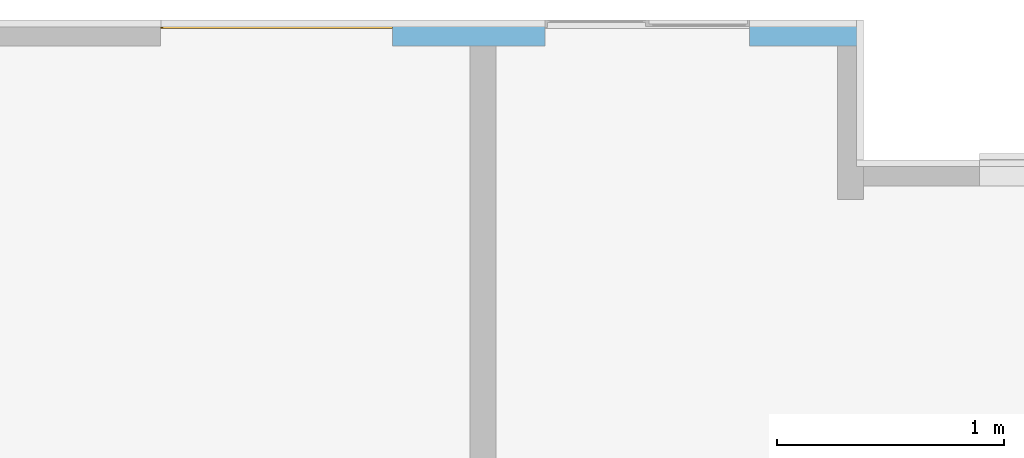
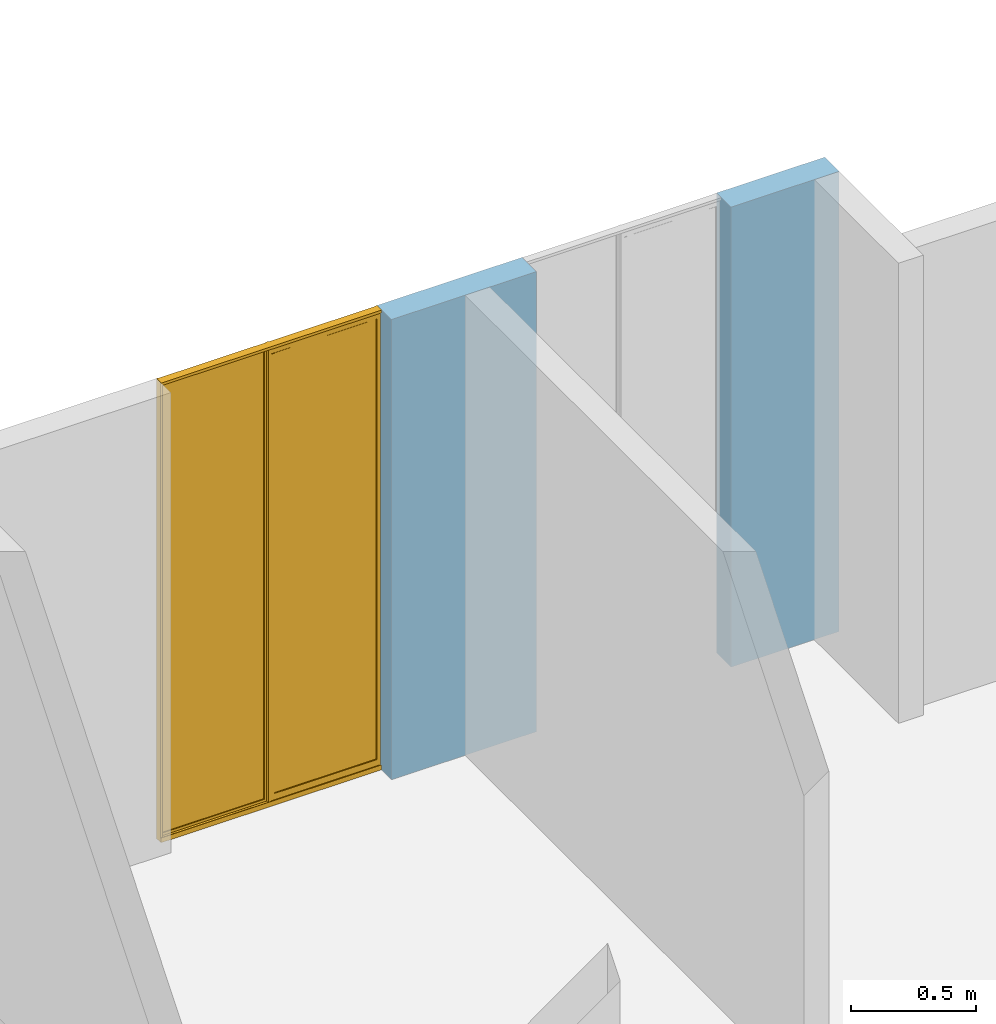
# One storey, part 18 of 48: 1 window, 2 openings, plus 1 element that does not belong to this part.
"""IFC4 building model written with IfcOpenShell, lengths in metres."""

from ifc_helpers import new_model, entity, si_unit, converted_unit, derived_unit, direction, frame, origin, place, context, subcontext, project, spatial, indexed_curve, outline, extrude, polygons, source, transform, mapped, material, constituent, constituent_set, type_object, type_shapes, element, fill, save


model = new_model("IFC4")

# Units and contexts
model_context = context("Model", 3, precision=1e-05, world=origin(), true_north=direction((6.123031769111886e-17, 1.0)))
body_context = subcontext(model_context, "Body", "Model", "MODEL_VIEW")
ifc_project = project(units=[si_unit("LENGTHUNIT", "METRE"), si_unit("AREAUNIT", "SQUARE_METRE"), si_unit("VOLUMEUNIT", "CUBIC_METRE"), converted_unit("PLANEANGLEUNIT", "DEGREE", entity("IfcRatioMeasure", 0.017453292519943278), si_unit("PLANEANGLEUNIT", "RADIAN"), dimensions=[0, 0, 0, 0, 0, 0, 0]), si_unit("MASSUNIT", "GRAM", prefix="KILO"), derived_unit("MASSDENSITYUNIT", [(si_unit("MASSUNIT", "GRAM", prefix="KILO"), 1), (si_unit("LENGTHUNIT", "METRE"), -3)]), derived_unit("IONCONCENTRATIONUNIT", [(si_unit("MASSUNIT", "GRAM", prefix="KILO"), 1), (si_unit("LENGTHUNIT", "METRE"), -3)]), derived_unit("MOMENTOFINERTIAUNIT", [(si_unit("LENGTHUNIT", "METRE"), 4)]), si_unit("TIMEUNIT", "SECOND"), si_unit("FREQUENCYUNIT", "HERTZ"), si_unit("THERMODYNAMICTEMPERATUREUNIT", "DEGREE_CELSIUS"), derived_unit("THERMALTRANSMITTANCEUNIT", [(si_unit("MASSUNIT", "GRAM", prefix="KILO"), 1), (si_unit("THERMODYNAMICTEMPERATUREUNIT", "KELVIN"), -1), (si_unit("TIMEUNIT", "SECOND"), -3)]), derived_unit("THERMALCONDUCTANCEUNIT", [(si_unit("MASSUNIT", "GRAM", prefix="KILO"), 1), (si_unit("THERMODYNAMICTEMPERATUREUNIT", "KELVIN"), -1), (si_unit("TIMEUNIT", "SECOND"), -3), (si_unit("LENGTHUNIT", "METRE"), 1)]), derived_unit("VOLUMETRICFLOWRATEUNIT", [(si_unit("LENGTHUNIT", "METRE"), 3), (si_unit("TIMEUNIT", "SECOND"), -1)]), derived_unit("MASSFLOWRATEUNIT", [(si_unit("MASSUNIT", "GRAM", prefix="KILO"), 1), (si_unit("TIMEUNIT", "SECOND"), -1)]), derived_unit("ROTATIONALFREQUENCYUNIT", [(si_unit("TIMEUNIT", "SECOND"), -1)]), si_unit("ELECTRICCURRENTUNIT", "AMPERE"), si_unit("ELECTRICVOLTAGEUNIT", "VOLT"), si_unit("POWERUNIT", "WATT"), si_unit("FORCEUNIT", "NEWTON", prefix="KILO"), si_unit("ILLUMINANCEUNIT", "LUX"), si_unit("LUMINOUSFLUXUNIT", "LUMEN"), si_unit("LUMINOUSINTENSITYUNIT", "CANDELA"), derived_unit("USERDEFINED", [(si_unit("MASSUNIT", "GRAM", prefix="KILO"), -1), (si_unit("LENGTHUNIT", "METRE"), -2), (si_unit("TIMEUNIT", "SECOND"), 3), (si_unit("LUMINOUSFLUXUNIT", "LUMEN"), 1)]), derived_unit("USERDEFINED", [(si_unit("MASSUNIT", "GRAM", prefix="KILO"), 1), (si_unit("TIMEUNIT", "SECOND"), -3), (si_unit("LENGTHUNIT", "METRE"), 3), (si_unit("ELECTRICCURRENTUNIT", "AMPERE"), -2)]), derived_unit("SOUNDPOWERUNIT", [(si_unit("MASSUNIT", "GRAM", prefix="KILO"), 1), (si_unit("TIMEUNIT", "SECOND"), -3), (si_unit("LENGTHUNIT", "METRE"), 2)]), derived_unit("SOUNDPRESSUREUNIT", [(si_unit("MASSUNIT", "GRAM", prefix="KILO"), 1), (si_unit("LENGTHUNIT", "METRE"), -1), (si_unit("TIMEUNIT", "SECOND"), -2)]), derived_unit("LINEARVELOCITYUNIT", [(si_unit("LENGTHUNIT", "METRE"), 1), (si_unit("TIMEUNIT", "SECOND"), -1)]), si_unit("PRESSUREUNIT", "PASCAL"), derived_unit("USERDEFINED", [(si_unit("MASSUNIT", "GRAM", prefix="KILO"), 1), (si_unit("LENGTHUNIT", "METRE"), -2), (si_unit("TIMEUNIT", "SECOND"), -2)]), derived_unit("LINEARFORCEUNIT", [(si_unit("MASSUNIT", "GRAM", prefix="KILO"), 1), (si_unit("TIMEUNIT", "SECOND"), -2)]), derived_unit("PLANARFORCEUNIT", [(si_unit("MASSUNIT", "GRAM", prefix="KILO"), 1), (si_unit("LENGTHUNIT", "METRE"), -1), (si_unit("TIMEUNIT", "SECOND"), -2)]), derived_unit("SPECIFICHEATCAPACITYUNIT", [(si_unit("THERMODYNAMICTEMPERATUREUNIT", "KELVIN"), -1), (si_unit("LENGTHUNIT", "METRE"), 2), (si_unit("TIMEUNIT", "SECOND"), -2)]), derived_unit("HEATINGVALUEUNIT", [(si_unit("LENGTHUNIT", "METRE"), 2), (si_unit("TIMEUNIT", "SECOND"), -2)]), derived_unit("VAPORPERMEABILITYUNIT", [(si_unit("LENGTHUNIT", "METRE"), -1), (si_unit("TIMEUNIT", "SECOND"), 1)]), derived_unit("DYNAMICVISCOSITYUNIT", [(si_unit("MASSUNIT", "GRAM", prefix="KILO"), 1), (si_unit("TIMEUNIT", "SECOND"), -1), (si_unit("LENGTHUNIT", "METRE"), -1)]), derived_unit("THERMALEXPANSIONCOEFFICIENTUNIT", [(si_unit("THERMODYNAMICTEMPERATUREUNIT", "KELVIN"), -1)]), derived_unit("MODULUSOFELASTICITYUNIT", [(si_unit("MASSUNIT", "GRAM", prefix="KILO"), 1), (si_unit("LENGTHUNIT", "METRE"), -1), (si_unit("TIMEUNIT", "SECOND"), -2)]), derived_unit("ISOTHERMALMOISTURECAPACITYUNIT", [(si_unit("LENGTHUNIT", "METRE"), 3), (si_unit("MASSUNIT", "GRAM", prefix="KILO"), -1)]), derived_unit("MOISTUREDIFFUSIVITYUNIT", [(si_unit("TIMEUNIT", "SECOND"), -1), (si_unit("LENGTHUNIT", "METRE"), 2)])], contexts=[model_context])

# Site, building, storey
site_placement = place(None, origin())
site = spatial("IfcSite", under=ifc_project, at=site_placement, Name="Default", CompositionType="ELEMENT")
building_placement = place(site_placement, origin())
building = spatial("IfcBuilding", under=site, at=building_placement, CompositionType="ELEMENT")
storey_placement = place(building_placement, frame((0.0, 0.0, 9.40000000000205)))
storey = spatial("IfcBuildingStorey", under=building, at=storey_placement, Name="Nivel 5", CompositionType="ELEMENT", Elevation=9.40000000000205)

# Wall, openings, window
ifc_material_1 = material(Name="Ladrillo claro (Aire)", Category="Materials")
wall_type = type_object("IfcWallType", Name="Basic Wall:B2010 - 0.115m - Muro exterior en mampostería - Ladrillo", PredefinedType="STANDARD")
wall_placement = place(storey_placement, frame((6.182499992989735, -0.037500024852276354, 0.0), z_axis=(0.0, 0.0, 1.0), x_axis=(-1.0, 0.0, 0.0)))
wall = element("IfcWall", 1, at=wall_placement, inside=storey, type_object=wall_type, material=ifc_material_1, Name="Basic Wall:B2010 - 0.115m - Muro exterior en mampostería - Ladrillo", ObjectType="Basic Wall:B2010 - 0.115m - Muro exterior en mampostería - Ladrillo", PredefinedType="NOTDEFINED", context=body_context, shape_type="Tessellation", body=[
    polygons([(1.8132921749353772e-17, -0.05750000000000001, 2.250000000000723), (1.1010000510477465e-15, -0.05750000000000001, -1.0828671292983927e-15), (0.5000000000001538, -0.05750000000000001, -1.0828671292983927e-15), (0.5000000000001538, -0.05750000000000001, 2.250000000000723), (2.079602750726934e-15, 0.05749999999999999, -1.0828671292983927e-15), (0.11500000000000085, 0.05749999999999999, -1.0828671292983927e-15), (0.5000000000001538, 0.05749999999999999, -1.0828671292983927e-15), (9.967356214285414e-16, 0.05749999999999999, 2.250000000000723), (0.5000000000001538, 0.05749999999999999, 2.250000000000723), (0.11500000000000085, 0.05749999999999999, 2.250000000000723)], [[[1, 2, 3, 4]], [[2, 5, 6, 7, 3]], [[2, 1, 8, 5]], [[4, 3, 7, 9]], [[8, 1, 4, 9, 10]], [[5, 8, 10, 9, 7, 6]]], closed=True),
    polygons([(1.4000000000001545, 0.05749999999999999, -1.0828671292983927e-15), (1.4000000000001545, 0.05749999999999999, 2.250000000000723), (1.6149999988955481, 0.0575, 2.250000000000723), (1.729999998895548, 0.05749999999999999, 2.250000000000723), (2.0707999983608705, 0.05749999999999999, 2.250000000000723), (2.0707999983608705, 0.05749999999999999, -1.0828671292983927e-15), (1.729999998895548, 0.05749999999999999, -1.0828671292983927e-15), (1.6149999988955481, 0.0575, -1.0828671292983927e-15), (1.4000000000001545, -0.05750000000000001, 2.250000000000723), (2.0707999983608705, -0.05750000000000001, 2.250000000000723), (2.0707999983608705, -0.05750000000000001, -1.0828671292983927e-15), (1.4000000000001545, -0.05750000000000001, -1.0828671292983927e-15)], [[[1, 2, 3, 4, 5, 6, 7, 8]], [[2, 9, 10, 5, 4, 3]], [[10, 11, 6, 5]], [[12, 9, 2, 1]], [[12, 1, 8, 7, 6, 11]], [[9, 12, 11, 10]]], closed=True),
])
opening_1_placement = place(wall_placement, frame((0.5000000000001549, -0.05750000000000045, 0.0)))
element("IfcOpeningElement", 2, at=opening_1_placement, cuts=wall, Name="B2020 - Ventana corrediza 2C - Aluminio + Vidrio:B2020 - 0.90m x 2.25m - Ventana corrediza 2C - Aluminio + Vidrio:1", PredefinedType="OPENING", context=body_context, shape_type="SweptSolid", body=[
    extrude(outline(indexed_curve([(0.0, 0.9), (0.0, 0.0), (2.2499999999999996, 0.0), (2.249999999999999, 0.9), (0.0, 0.9)], self_intersect=False)), frame((0.0, 0.0, 0.0), z_axis=(0.0, 1.0, 0.0), x_axis=(0.0, 0.0, 1.0)), (0.0, 0.0, 1.0), 0.115),
])
opening_2_placement = place(wall_placement, frame((2.0707999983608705, -0.0575000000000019, 0.0)))
opening_2 = element("IfcOpeningElement", 3, at=opening_2_placement, cuts=wall, Name="B2020 - Ventana corrediza 2C - Aluminio + Vidrio:B2020 - 1.02m x 2.25m - Ventana corrediza 2C - Aluminio + Vidrio:1", PredefinedType="OPENING", context=body_context, shape_type="SweptSolid", body=[
    extrude(outline(indexed_curve([(0.0, 1.0199999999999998), (0.0, -7.67014426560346e-33), (2.2499999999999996, -7.67014426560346e-33), (2.249999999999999, 1.0199999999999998), (0.0, 1.0199999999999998)], self_intersect=False)), frame((0.0, 0.0, 0.0), z_axis=(0.0, 1.0, 0.0), x_axis=(0.0, 0.0, 1.0)), (0.0, 0.0, 1.0), 0.115),
])
ifc_material_2 = material(Name="Vidrio", Category="Materials")
ifc_constituent_1 = constituent(ifc_material_2, Name="Vidrio", Category="Materials")
ifc_material_3 = material(Name="<Unnamed>")
ifc_constituent_2 = constituent(ifc_material_3, Name="<Unnamed>")
ifc_constituent_set_1 = constituent_set(constituents=[ifc_constituent_1, ifc_constituent_2])
ifc_constituent_3 = constituent(ifc_material_2, Name="Vidrio", Category="Materials")
ifc_constituent_4 = constituent(ifc_material_3, Name="<Unnamed>")
ifc_constituent_set_2 = constituent_set(constituents=[ifc_constituent_3, ifc_constituent_4])
window_type = type_object("IfcWindowType", Name="B2020 - Ventana corrediza 2C - Aluminio + Vidrio:B2020 - 1.02m x 2.25m - Ventana corrediza 2C - Aluminio + Vidrio", PartitioningType="NOTDEFINED", PredefinedType="WINDOW", material=ifc_constituent_set_2)
shared_shape = source(origin(), body_context, "Body", "Tessellation", [
    polygons([(0.48981286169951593, 0.11062877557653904, 0.028641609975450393), (0.48981286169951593, 0.10552744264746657, 0.028641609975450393), (0.01996764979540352, 0.10552744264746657, 0.028641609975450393), (0.019967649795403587, 0.11062877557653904, 0.028641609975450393), (0.48981286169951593, 0.11062877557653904, 2.2347073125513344), (0.48981286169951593, 0.10552744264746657, 2.2347073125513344), (0.01996764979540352, 0.10552744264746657, 2.2347073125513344), (0.019967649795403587, 0.11062877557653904, 2.2347073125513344)], [[[1, 2, 3, 4]], [[5, 6, 2, 1]], [[6, 7, 3, 2]], [[7, 8, 4, 3]], [[8, 5, 1, 4]], [[5, 8, 7, 6]]], closed=True),
    polygons([(1.0011536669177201, 0.0938089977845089, 0.054189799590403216), (1.0011536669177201, 0.08951300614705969, 0.054189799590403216), (0.5317289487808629, 0.08951300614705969, 0.054189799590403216), (0.5317289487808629, 0.0938089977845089, 0.054189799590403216), (1.0011536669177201, 0.0938089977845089, 2.2043993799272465), (1.0011536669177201, 0.08951300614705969, 2.2043993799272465), (0.5317289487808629, 0.08951300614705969, 2.2043993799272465), (0.5317289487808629, 0.0938089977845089, 2.2043993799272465)], [[[1, 2, 3, 4]], [[5, 6, 2, 1]], [[6, 7, 3, 2]], [[7, 8, 4, 3]], [[8, 5, 1, 4]], [[5, 8, 7, 6]]], closed=True),
    polygons([(1.0200000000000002, 0.07999999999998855, 0.020380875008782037), (1.0200000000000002, 0.07999999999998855, -2.5718094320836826e-15), (1.0200000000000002, 0.1149999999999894, -2.5718094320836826e-15), (1.0200000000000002, 0.1150000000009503, 2.2499999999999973), (1.0200000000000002, 0.07720993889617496, 2.2499999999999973), (1.0200000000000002, 0.07720993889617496, 2.2365872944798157), (1.0200000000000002, 0.07857307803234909, 2.2365872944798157), (1.0200000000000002, 0.07857307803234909, 2.24863686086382), (1.0200000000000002, 0.08683610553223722, 2.24863686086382), (1.0200000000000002, 0.0868361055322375, 0.017447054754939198), (1.0200000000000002, 0.08124999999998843, 0.017447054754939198), (1.0200000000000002, 0.08124999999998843, 0.02163087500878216), (1.0200000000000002, 0.07857761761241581, 0.02163087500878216), (1.0200000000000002, 0.07857761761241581, 0.025674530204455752), (1.0200000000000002, 0.07732761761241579, 0.025674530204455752), (1.0200000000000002, 0.07732761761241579, 0.020380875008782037), (2.0303758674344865e-16, 0.0799999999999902, 0.020380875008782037), (2.0303758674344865e-16, 0.0799999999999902, -2.5718094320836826e-15), (2.0303758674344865e-16, 0.11499999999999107, -2.5718094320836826e-15), (0.5033545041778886, 0.1149999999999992, 2.2499999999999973), (0.5166454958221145, 0.1149999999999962, 2.2499999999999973), (0.5166454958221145, 0.11499999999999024, 0.006176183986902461), (1.010102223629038, 0.11499999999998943, 0.006176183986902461), (1.010102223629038, 0.1150000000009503, 2.2499999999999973), (2.707167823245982e-16, 0.1150000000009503, 2.2499999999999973), (0.009999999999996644, 0.11500000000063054, 2.2499999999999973), (0.009999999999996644, 0.11499999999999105, 0.006176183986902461), (0.5033545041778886, 0.11499999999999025, 0.006176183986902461), (1.003701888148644, 0.08683610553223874, 2.2069861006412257), (1.0037018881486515, 0.0868361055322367, 0.0519155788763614), (0.5291807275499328, 0.08683610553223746, 0.0519155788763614), (0.5291807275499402, 0.08683610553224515, 2.2043993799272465), (0.5166454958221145, 0.08683610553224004, 2.2043993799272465), (0.5166454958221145, 0.08683610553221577, 2.2069861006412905), (1.0037018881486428, 0.08683610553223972, 2.237270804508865), (0.5166454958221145, 0.0868361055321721, 2.237270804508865), (0.5166454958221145, 0.08683610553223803, 2.24863686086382), (0.5019528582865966, 0.08683610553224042, 2.24863686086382), (0.5019528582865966, 0.08683610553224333, 0.01744705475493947), (0.5166454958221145, 0.08683610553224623, 0.017447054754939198), (0.5166454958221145, 0.08683610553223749, 0.021630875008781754), (1.0162371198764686, 0.08683610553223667, 0.02163087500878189), (1.0162371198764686, 0.08683610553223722, 0.01744705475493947), (1.0037018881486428, 0.08683610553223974, 2.24863686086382), (2.0303758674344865e-16, 0.0812499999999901, 0.017447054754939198), (1.0162371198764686, 0.09036136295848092, 0.017447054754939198), (0.5166454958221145, 0.09036136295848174, 0.017447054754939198), (0.5019528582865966, 0.09036136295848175, 0.017447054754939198), (0.009999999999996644, 0.09036136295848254, 0.017447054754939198), (0.009999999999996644, 0.08300000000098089, 0.017447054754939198), (2.0303758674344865e-16, 0.08300000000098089, 0.017447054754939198), (2.0303758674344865e-16, 0.0812499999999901, 0.02163087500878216), (2.0303758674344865e-16, 0.07857761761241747, 0.02163087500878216), (2.0303758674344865e-16, 0.07857761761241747, 0.025674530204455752), (2.0303758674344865e-16, 0.07732761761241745, 0.025674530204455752), (2.0303758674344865e-16, 0.07732761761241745, 0.020380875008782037), (1.0011570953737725, 0.09380711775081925, 0.054191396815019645), (1.0037018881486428, 0.09648589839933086, 0.051915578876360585), (0.529180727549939, 0.09648589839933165, 0.051915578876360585), (0.5317227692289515, 0.09380452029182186, 0.054191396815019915), (1.0037018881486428, 0.09648589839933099, 2.237270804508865), (1.0011536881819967, 0.09378706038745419, 2.237270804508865), (1.0011536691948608, 0.09378696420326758, 2.24863686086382), (1.0037018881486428, 0.09648589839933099, 2.24863686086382), (1.0037018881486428, 0.09648589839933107, 2.206986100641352), (0.5166454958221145, 0.09648589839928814, 2.2069861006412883), (0.5166454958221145, 0.09648589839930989, 2.237270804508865), (1.010102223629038, 0.09648589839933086, 2.24863686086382), (1.010102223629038, 0.09648589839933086, 0.021630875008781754), (0.5166454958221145, 0.09648589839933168, 0.02163087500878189), (0.5166454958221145, 0.09648589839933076, 2.2043993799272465), (0.5291807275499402, 0.09648589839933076, 2.2043993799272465), (0.5317289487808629, 0.09379979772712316, 2.2043993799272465), (1.0011598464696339, 0.08951748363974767, 0.05419139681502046), (0.5317255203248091, 0.08951488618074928, 0.05419139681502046), (1.0011537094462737, 0.08953496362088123, 2.237270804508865), (1.0011536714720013, 0.08953504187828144, 2.24863686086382), (0.5317289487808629, 0.08952211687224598, 2.2043992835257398), (0.5019528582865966, 0.10334183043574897, 2.24863686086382), (0.5019528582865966, 0.10334183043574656, 0.014402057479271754), (0.5019528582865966, 0.09363692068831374, 0.014402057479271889), (0.5019528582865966, 0.0936369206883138, 0.010600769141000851), (0.5019528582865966, 0.09036136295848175, 0.011279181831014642), (0.5166454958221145, 0.11281438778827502, 2.2499999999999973), (0.5166454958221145, 0.11281438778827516, 2.2369062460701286), (0.5166454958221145, 0.11061545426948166, 2.2347073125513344), (0.5166454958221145, 0.10554076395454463, 2.2347073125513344), (0.5166454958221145, 0.10334183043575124, 2.2369062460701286), (0.5166454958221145, 0.10334183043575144, 2.24863686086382), (0.5166454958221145, 0.09380890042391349, 2.204399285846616), (0.5166454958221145, 0.09036136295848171, 0.011279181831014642), (1.0162371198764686, 0.09648589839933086, 0.021630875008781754), (1.0162371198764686, 0.09648589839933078, 0.010010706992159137), (1.0162371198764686, 0.0903613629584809, 0.011279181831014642), (1.010102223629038, 0.09648589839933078, 0.010010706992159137), (1.010102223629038, 0.10334183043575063, 2.24863686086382), (1.010102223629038, 0.10334183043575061, 2.2369062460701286), (1.010102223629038, 0.1055407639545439, 2.2347073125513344), (1.010102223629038, 0.11061545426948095, 2.2347073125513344), (1.010102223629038, 0.11281438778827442, 2.2369062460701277), (1.010102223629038, 0.11281438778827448, 2.2499999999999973), (2.0303758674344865e-16, 0.08300000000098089, 2.24863686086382), (2.0303758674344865e-16, 0.07857307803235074, 2.24863686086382), (2.0303758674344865e-16, 0.07857307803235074, 2.2365872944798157), (2.0303758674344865e-16, 0.07720993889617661, 2.2365872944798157), (2.0303758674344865e-16, 0.07720993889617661, 2.2499999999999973), (0.009999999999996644, 0.08300000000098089, 2.24863686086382), (0.009999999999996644, 0.09036136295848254, 0.011279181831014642), (0.009999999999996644, 0.09363692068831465, 0.010600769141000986), (0.009999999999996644, 0.09363692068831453, 0.014402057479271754), (0.009999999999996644, 0.10334183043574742, 0.014402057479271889), (0.009999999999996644, 0.10334183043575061, 2.24863686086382), (0.5033545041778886, 0.11281438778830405, 0.006628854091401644), (0.5033545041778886, 0.112814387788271, 2.2499999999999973), (0.009999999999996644, 0.11281438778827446, 2.2499999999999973), (0.009999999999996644, 0.11281438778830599, 0.0066288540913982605), (0.4923610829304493, 0.11281438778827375, 0.02682441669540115), (0.48981286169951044, 0.11062877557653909, 0.028641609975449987), (0.4898128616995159, 0.1106287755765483, 2.2347139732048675), (0.4923610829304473, 0.11281438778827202, 2.236906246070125), (0.019967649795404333, 0.11062877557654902, 0.028641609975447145), (0.017419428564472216, 0.11281438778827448, 0.02682441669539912), (0.017419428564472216, 0.1128143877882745, 2.236906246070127), (0.019967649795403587, 0.11062877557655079, 2.2347139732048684), (0.019967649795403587, 0.10552744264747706, 0.028641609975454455), (0.01741942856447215, 0.1033418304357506, 0.026824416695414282), (0.4923610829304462, 0.10334183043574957, 0.02682441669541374), (0.48981286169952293, 0.10552744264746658, 0.028641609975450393), (0.019968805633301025, 0.10553009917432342, 2.234711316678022), (0.01741942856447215, 0.10334183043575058, 2.23690624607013), (0.49236108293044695, 0.10334183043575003, 2.2369062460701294), (0.4898117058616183, 0.1055300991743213, 2.234711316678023), (1.0011537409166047, 0.09378737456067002, 2.2043889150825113), (1.0011555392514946, 0.0895303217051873, 2.2043931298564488), (0.5166454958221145, 0.08951315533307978, 2.2043993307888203)], [[[1, 2, 3, 4, 5, 6, 7, 8, 9, 10, 11, 12, 13, 14, 15, 16]], [[17, 18, 2, 1]], [[2, 18, 19, 3]], [[20, 21, 22, 23, 24, 4, 3, 19, 25, 26, 27, 28]], [[35, 36, 37, 38, 39, 40, 41, 42, 43, 10, 9, 44], [29, 30, 31, 32, 33, 34]], [[45, 11, 10, 43, 46, 47, 40, 39, 48, 49, 50, 51]], [[45, 52, 12, 11]], [[52, 53, 13, 12]], [[53, 54, 14, 13]], [[54, 55, 15, 14]], [[55, 56, 16, 15]], [[56, 17, 1, 16]], [[57, 58, 59, 60]], [[61, 62, 63, 64]], [[58, 65, 66, 67, 61, 64, 68, 69, 70, 71, 72, 59]], [[72, 73, 60, 59]], [[74, 57, 60, 75]], [[62, 76, 77, 63]], [[60, 73, 78, 75]], [[30, 74, 75, 31]], [[76, 35, 44, 77]], [[78, 32, 31, 75]], [[48, 39, 38, 79, 80, 81, 82, 83]], [[22, 21, 84, 85, 86, 87, 88, 89, 37, 36, 67, 66, 90, 71, 70, 41, 40, 47, 91]], [[41, 70, 69, 92, 42]], [[92, 93, 94, 46, 43, 42]], [[69, 95, 93, 92]], [[24, 23, 95, 69, 68, 96, 97, 98, 99, 100, 101]], [[17, 56, 55, 54, 53, 52, 45, 51, 102, 103, 104, 105, 106, 25, 19, 18]], [[51, 50, 107, 102]], [[48, 83, 108, 49]], [[50, 49, 108, 109, 110, 111, 112, 107]], [[83, 82, 109, 108]], [[113, 114, 20, 28]], [[26, 115, 116, 27]], [[84, 101, 100, 85]], [[82, 81, 110, 109]], [[117, 118, 119, 120]], [[121, 122, 123, 124]], [[122, 121, 118, 117]], [[125, 126, 127, 128]], [[88, 97, 96, 89]], [[126, 125, 129, 130]], [[128, 127, 131, 132]], [[81, 80, 111, 110]], [[125, 121, 124, 129]], [[121, 125, 128, 118]], [[118, 128, 132, 119]], [[5, 4, 24, 101, 84, 21, 20, 114, 115, 26, 25, 106]], [[65, 133, 73, 90, 66]], [[133, 134, 78, 73]], [[134, 29, 34, 135, 78]], [[76, 62, 61, 67, 36, 35]], [[33, 32, 78, 135]], [[104, 103, 8, 7]], [[105, 104, 7, 6]], [[106, 105, 6, 5]], [[123, 120, 119, 124]], [[132, 129, 124, 119]], [[131, 130, 129, 132]], [[8, 103, 102, 107, 112, 79, 38, 37, 89, 96, 68, 64, 63, 77, 44, 9]], [[87, 98, 97, 88]], [[86, 99, 98, 87]], [[85, 100, 99, 86]], [[73, 72, 71, 90]], [[111, 80, 79, 112], [127, 126, 130, 131]], [[115, 114, 113, 116], [117, 120, 123, 122]], [[113, 28, 27, 116]], [[22, 91, 94, 93, 95, 23]], [[91, 47, 46, 94]], [[135, 34, 33]], [[74, 30, 29, 134]], [[57, 74, 134, 133]], [[58, 57, 133, 65]]], closed=True),
])
type_shapes(window_type, [shared_shape])
window_placement = place(opening_2_placement, frame((1.0199999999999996, 0.1149999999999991, 0.0), z_axis=(0.0, 0.0, 1.0), x_axis=(-1.0, 0.0, 0.0)))
window = element("IfcWindow", 4, at=window_placement, inside=storey, type_object=window_type, material=ifc_constituent_set_1, Name="B2020 - Ventana corrediza 2C - Aluminio + Vidrio:B2020 - 1.02m x 2.25m - Ventana corrediza 2C - Aluminio + Vidrio", ObjectType="B2020 - Ventana corrediza 2C - Aluminio + Vidrio:B2020 - 1.02m x 2.25m - Ventana corrediza 2C - Aluminio + Vidrio", OverallHeight=2.2499999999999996, OverallWidth=1.0199999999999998, PartitioningType="NOTDEFINED", PredefinedType="WINDOW", context=body_context, shape_type="MappedRepresentation", body=[
    mapped(shared_shape, transform((0.0, 0.0, 0.0), scale=1.0)),
])
fill(opening_2, window)

save(model, "model.ifc")
